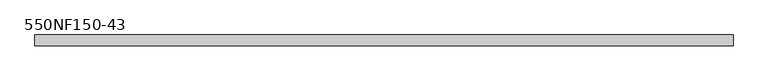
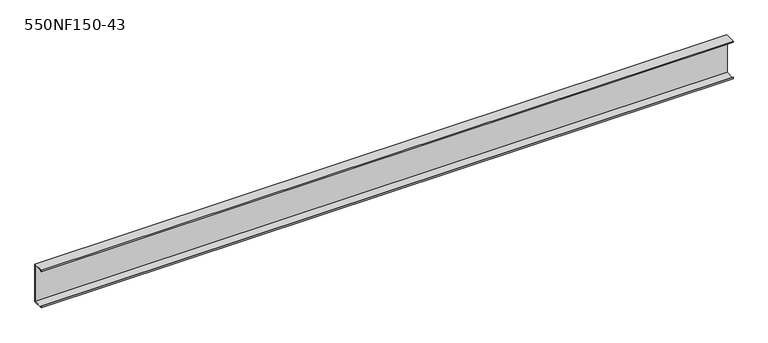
"""IFC4 building model written with IfcOpenShell, lengths in millimetres: beam geometry, BIMSF-SSMA-S : 550NF150-43."""

from ifc_helpers import new_model, si_unit, frame, origin, place, context, project, spatial, polyline, outline, extrude, source, transform, mapped, element, save


def beam_550nf150_43_33ff361d(model_context):
    return source(origin(), model_context, "Body", "SweptSolid", [
        extrude(outline(polyline([(19.05, 69.85), (19.05, -69.85), (-19.05, -69.85), (-19.05, -65.0748), (-17.9003158, -65.0748), (-17.9003158, -68.7003158), (17.9003158, -68.7003158), (17.9003158, 68.7003158), (-17.9003158, 68.7003158), (-17.9003158, 65.0748), (-19.05, 65.0748), (-19.05, 69.85), (19.05, 69.85)])), frame((-1219.2, 0.0, 0.0), z_axis=(1.0, 0.0, 0.0), x_axis=(0.0, 1.0, 0.0)), (0.0, 0.0, 1.0), 2438.4),
    ])


if __name__ == "__main__":
    model = new_model("IFC4")
    model_context = context("Model", 3, world=origin())
    ifc_project = project(units=[si_unit("LENGTHUNIT", "METRE", prefix="MILLI")], contexts=[model_context])
    site = spatial("IfcSite", under=ifc_project)
    building = spatial("IfcBuilding", under=site)
    placement = place(None, origin())
    beam_550nf150_43_shape = beam_550nf150_43_33ff361d(model_context)
    element("IfcBeam", 1, ObjectType="BIMSF-SSMA-S : 550NF150-43", at=placement, inside=building, context=model_context, shape_type="MappedRepresentation", body=[
        mapped(beam_550nf150_43_shape, transform((0.0, 0.0, 0.0), x_axis=(1.0, 0.0, 0.0), y_axis=(0.0, 1.0, 0.0), z_axis=(0.0, 0.0, 1.0))),
    ])
    save(model, "model.ifc")
